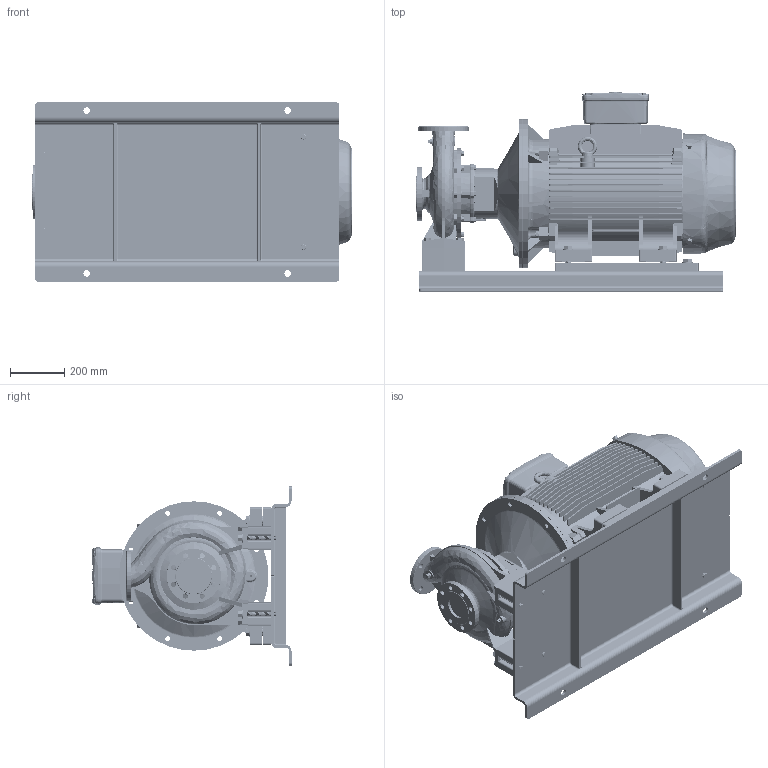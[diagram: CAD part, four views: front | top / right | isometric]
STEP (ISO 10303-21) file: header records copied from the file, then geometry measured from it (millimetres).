
FILE_DESCRIPTION (( 'STEP AP214' ), '1' );
FILE_NAME ('GSD2 65-250_55 & 75_(250SM)_W21_BP.STEP', '2024-05-17T05:05:37', ( '' ), ( '' ), 'SwSTEP 2.0', 'SolidWorks 2019', '' );
FILE_SCHEMA (( 'AUTOMOTIVE_DESIGN' ));
Length unit declared in the file: millimetre
Products named in the file (17): Parametric Nut_M16; 100x30 - CGSDA-5291; Parametric Flat Washer_M20; Parametric bolt and washer_SFT-A417B; CGS11-5321_2_3_4_5_CGS11-5324; 65-250-250S_M_______; N8S3 GSDA-835 F1-1832959-00; CGS11-5321_2_3_4_5_CGS11-5322; 250S_M2P IE3_W21T_B35; Parametric bolt_SFT-A417B; Parametric Stud Bolt_SFSK-AB383; GSD2  65-250_55 & 75_(250SM)_W21_BP; A407B Bolt_407; Parametric Flat Washer_M16
Assembly tree (39 placements, depth 3):
  GSD2  65-250_55 & 75_(250SM)_W21_BP
    65-250-250S_M_______
    250S_M2P IE3_W21T_B35
    CGS11-5321_2_3_4_5_CGS11-5322  x2
    CGS11-5321_2_3_4_5_CGS11-5324  x4
    N8S3 GSDA-835 F1-1832959-00
    100x30 - CGSDA-5291  x2
    Parametric Stud Bolt_SFSK-AB383  x4
    Parametric Flat Washer_M16  x4
    Parametric Nut_M16  x4
    A407B Bolt_407  x2
    Parametric Flat Washer_M20  x2
    Parametric bolt and washer_SFT-A417B
      Parametric bolt_SFT-A417B
      Parametric Flat Washer_M20
    Parametric bolt and washer_SFT-A417B
      Parametric bolt_SFT-A417B
      Parametric Flat Washer_M20
    Parametric bolt and washer_SFT-A417B
      Parametric bolt_SFT-A417B
      Parametric Flat Washer_M20
    Parametric bolt and washer_SFT-A417B
      Parametric bolt_SFT-A417B
      Parametric Flat Washer_M20
Bounding box: 1175.5 x 733 x 660 mm (x, y, z)
Volume: 150049817 mm3; surface area: 7495858.7 mm2
Topology: 37 solids, 42 shells, 4981 faces, 13315 edges, 8540 vertices
Faces by surface type: cylinder 2052, plane 1773, cone 525, torus 310, bspline 305, sphere 16
Entity records: 178049 total; most frequent: CARTESIAN_POINT 83845, ORIENTED_EDGE 20814, DIRECTION 18466, EDGE_CURVE 10407, AXIS2_PLACEMENT_3D 6774, VERTEX_POINT 6642, VECTOR 4918, LINE 4918
